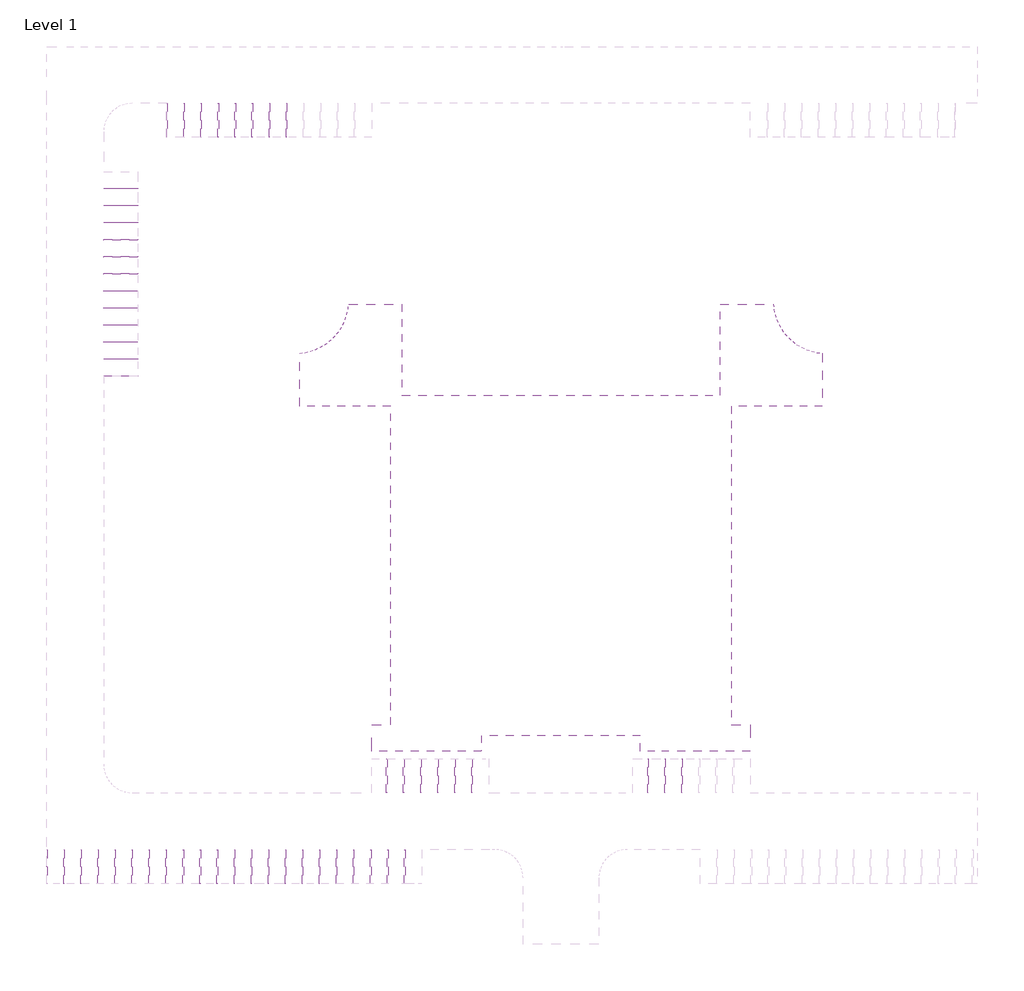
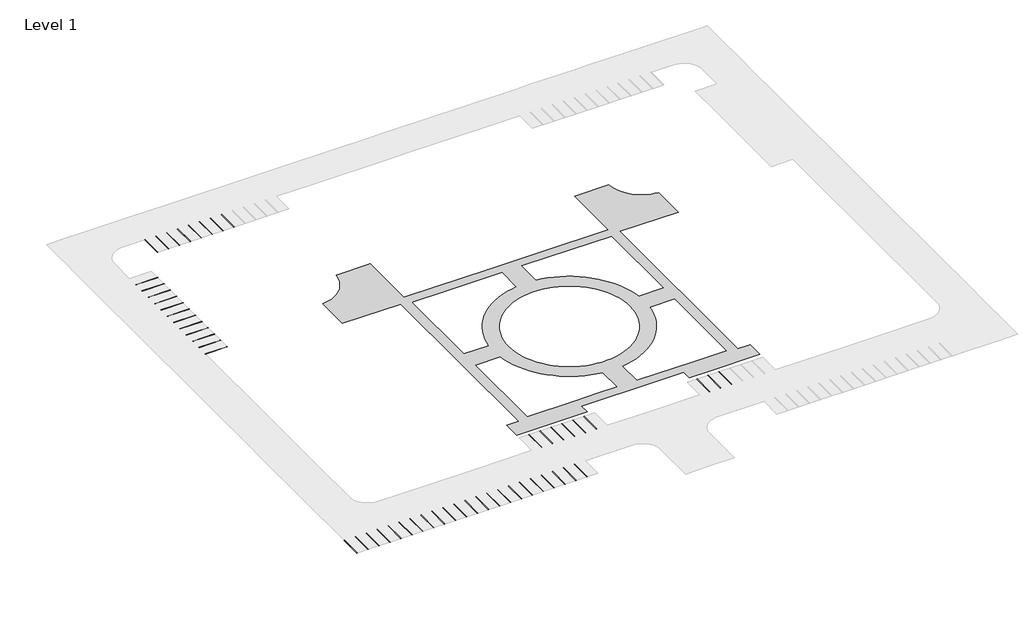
# One storey, part 1 of 2: 52 proxies.
"""IFC4 building model written with IfcOpenShell, lengths in millimetres."""

from ifc_helpers import new_model, si_unit, origin, place, context, project, spatial, triangles, transform, mapped, element, save
from components import parking_space_9_x_18_90_deg_b8b21359

model = new_model("IFC4")

# Units and contexts
model_context = context("Model", 3, world=origin())
ifc_project = project(units=[si_unit("LENGTHUNIT", "METRE", prefix="MILLI")], contexts=[model_context])

# Site, building, storey
site = spatial("IfcSite", under=ifc_project)
building = spatial("IfcBuilding", under=site)
storey = spatial("IfcBuildingStorey", under=building, Name="Level 1", Elevation=0.0)

# Proxies
placement = place(None, origin())
element("IfcBuildingElementProxy", 1, Name="Building Element Proxy", at=placement, inside=storey, context=model_context, shape_type="Tessellation", body=[
    triangles([(-111072.6156006, -54073.3412842, 3048.0), (-111072.6156006, -39442.9412842, 3048.0), (-119628.8189209, -39442.9412842, 3048.0), (-119735.1101074, -40306.4467163, 3048.0), (-119928.7727051, -41154.6368042, 3048.0), (-120207.7789307, -41978.7074341, 3048.0), (-120569.2266357, -42770.091687, 3048.0), (-121009.3765137, -43520.5621582, 3048.0), (-121523.6427979, -44222.3193237, 3048.0), (-122106.6862793, -44868.0752563, 3048.0), (-122752.4422119, -45451.1140869, 3048.0), (-123454.1947266, -45965.3803711, 3048.0), (-124204.6698486, -46405.530249, 3048.0), (-124996.0541016, -46766.982605, 3048.0), (-125820.1154297, -47045.9888306, 3048.0), (-126668.3148193, -47239.6467773, 3048.0), (-127531.8156006, -47345.9426147, 3048.0), (-127531.8156006, -55902.1412842, 3048.0), (-112901.4156006, -55902.1412842, 3048.0), (-112901.4156006, -107108.5412842, 3048.0), (-115949.4156006, -107108.5412842, 3048.0), (-115949.4156006, -111375.7412842, 3048.0), (-98271.0156006, -111375.7412842, 3048.0), (-98271.0156006, -111226.9875732, 3048.0), (-98271.0156006, -108937.3412842, 3048.0), (-93048.4134521, -108937.3412842, 3048.0), (-85469.4156006, -108937.3412842, 3048.0), (-72667.8156006, -108937.3412842, 3048.0), (-72667.8156006, -111375.7412842, 3048.0), (-68081.5978638, -111375.7412842, 3048.0), (-54989.4156006, -111375.7412842, 3048.0), (-54989.4156006, -107108.5412842, 3048.0), (-58037.4156006, -107108.5412842, 3048.0), (-58037.4156006, -55902.1412842, 3048.0), (-43407.0156006, -55902.1412842, 3048.0), (-43407.0156006, -47345.9426147, 3048.0), (-44270.5163818, -47239.6467773, 3048.0), (-45118.7111206, -47045.9888306, 3048.0), (-45942.7817505, -46766.982605, 3048.0), (-46734.1613525, -46405.530249, 3048.0), (-47484.6318237, -45965.3803711, 3048.0), (-48186.3936401, -45451.1140869, 3048.0), (-48832.1495728, -44868.0752563, 3048.0), (-49415.1884033, -44222.3193237, 3048.0), (-49929.4546875, -43520.5621582, 3048.0), (-50369.5999146, -42770.091687, 3048.0), (-50731.0569214, -41978.7074341, 3048.0), (-51010.063147, -41154.6368042, 3048.0), (-51203.7210937, -40306.4467163, 3048.0), (-51310.0169312, -39442.9412842, 3048.0), (-59866.2156006, -39442.9412842, 3048.0), (-59866.2156006, -54073.3412842, 3048.0), (-76556.7875244, -54073.3412842, 3048.0), (-90020.5982666, -54073.3412842, 3048.0), (-103108.0691895, -54073.3412842, 3048.0), (-87907.8156006, -56511.7412842, 3048.0), (-87907.8156006, -62765.717688, 3048.0), (-89266.0489746, -62993.0526489, 3048.0), (-90529.822998, -63300.615271, 3048.0), (-90604.1254395, -63318.6978882, 3048.0), (-91914.9384521, -63740.9232788, 3048.0), (-93191.5116943, -64257.4870972, 3048.0), (-94427.0827881, -64865.6453247, 3048.0), (-95615.0846924, -65562.1702515, 3048.0), (-96749.2015137, -66343.3597778, 3048.0), (-97823.4243164, -67205.0699707, 3048.0), (-98832.0325195, -68142.7197144, 3048.0), (-99769.6869141, -69151.3372192, 3048.0), (-100631.3924561, -70225.5553711, 3048.0), (-101412.5912842, -71359.6768433, 3048.0), (-101615.7602783, -71706.2091797, 3048.0), (-102109.1162109, -72547.6740967, 3048.0), (-102717.2744385, -73783.2451904, 3048.0), (-103233.8382568, -75059.8230835, 3048.0), (-103656.0636475, -76370.6314453, 3048.0), (-103981.7088867, -77708.7032593, 3048.0), (-104209.0438477, -79066.9412842, 3048.0), (-110463.0156006, -79066.9412842, 3048.0), (-110463.0156006, -56511.7412842, 3048.0), (-102901.7003906, -56511.7412842, 3048.0), (-90155.1667969, -56511.7412842, 3048.0), (-87907.8156006, -106498.9412842, 3048.0), (-92913.8356201, -106498.9412842, 3048.0), (-98671.1586182, -106498.9412842, 3048.0), (-110463.0156006, -106498.9412842, 3048.0), (-110463.0156006, -83943.7412842, 3048.0), (-104209.0438477, -83943.7412842, 3048.0), (-103981.7088867, -85301.98396, 3048.0), (-103656.0636475, -86640.051123, 3048.0), (-103233.8382568, -87950.8641357, 3048.0), (-102717.2744385, -89227.4373779, 3048.0), (-102109.1162109, -90463.0084717, 3048.0), (-101412.5912842, -91651.010376, 3048.0), (-100631.3924561, -92785.1271973, 3048.0), (-99769.6869141, -93859.35, 3048.0), (-99737.9958252, -93893.4409424, 3048.0), (-98832.0325195, -94867.9675049, 3048.0), (-97823.4243164, -95805.6125977, 3048.0), (-96749.2015137, -96667.3274414, 3048.0), (-95615.0846924, -97448.5169678, 3048.0), (-94427.0827881, -98145.0418945, 3048.0), (-93191.5116943, -98753.2001221, 3048.0), (-92501.7770508, -99032.2993652, 3048.0), (-91914.9384521, -99269.7639404, 3048.0), (-90604.1254395, -99691.9893311, 3048.0), (-89266.0489746, -100017.6345703, 3048.0), (-87907.8156006, -100244.9695312, 3048.0), (-100709.4156006, -81505.3412842, 3048.0), (-100659.9953613, -80279.0347412, 3048.0), (-100512.0602051, -79060.6718994, 3048.0), (-100266.5682129, -77858.1732056, 3048.0), (-99925.1099854, -76679.324231, 3048.0), (-99489.8993408, -75531.7710205, 3048.0), (-98963.7640137, -74422.9596313, 3048.0), (-98350.1084473, -73360.0849731, 3048.0), (-97652.9230957, -72350.0303467, 3048.0), (-96876.7193115, -71399.3534912, 3048.0), (-96026.5386475, -70514.2168213, 3048.0), (-95107.8877441, -69700.3641724, 3048.0), (-94126.7197266, -68963.0696411, 3048.0), (-93089.4156006, -68307.1143311, 3048.0), (-92002.6912354, -67736.7584473, 3048.0), (-90873.5973633, -67255.6947876, 3048.0), (-90745.7447021, -67213.0136719, 3048.0), (-89709.445166, -66867.0487427, 3048.0), (-88517.8062744, -66573.3317871, 3048.0), (-87306.3918457, -66376.460083, 3048.0), (-86083.071167, -66277.7033203, 3048.0), (-84855.7600342, -66277.7033203, 3048.0), (-83632.4393555, -66376.460083, 3048.0), (-82421.0249268, -66573.3317871, 3048.0), (-81229.3860352, -66867.0487427, 3048.0), (-80065.2338379, -67255.6947876, 3048.0), (-78936.1399658, -67736.7584473, 3048.0), (-77849.4156006, -68307.1143311, 3048.0), (-76812.1068237, -68963.0696411, 3048.0), (-75830.9481079, -69700.3641724, 3048.0), (-74912.2972046, -70514.2168213, 3048.0), (-74062.1118896, -71399.3534912, 3048.0), (-73979.2053223, -71500.8961304, 3048.0), (-73285.9081055, -72350.0303467, 3048.0), (-72588.718103, -73360.0849731, 3048.0), (-71975.0671875, -74422.9596313, 3048.0), (-71448.9272095, -75531.7710205, 3048.0), (-71013.7212158, -76679.324231, 3048.0), (-70672.2629883, -77858.1732056, 3048.0), (-70426.7709961, -79060.6718994, 3048.0), (-70278.8358398, -80279.0347412, 3048.0), (-70229.4156006, -81505.3412842, 3048.0), (-70278.8358398, -82731.6571289, 3048.0), (-70426.7709961, -83950.0106689, 3048.0), (-70672.2629883, -85152.5140137, 3048.0), (-71013.7212158, -86331.3629883, 3048.0), (-71448.9272095, -87478.9115479, 3048.0), (-71576.305481, -87747.3602783, 3048.0), (-71975.0671875, -88587.7275879, 3048.0), (-72588.718103, -89650.6022461, 3048.0), (-73285.9081055, -90660.6522217, 3048.0), (-74062.1118896, -91611.3290771, 3048.0), (-74912.2972046, -92496.4657471, 3048.0), (-75830.9481079, -93310.3230469, 3048.0), (-76812.1068237, -94047.6175781, 3048.0), (-77849.4156006, -94703.5682373, 3048.0), (-78936.1399658, -95273.9241211, 3048.0), (-80065.2338379, -95754.9924316, 3048.0), (-81229.3860352, -96143.6384766, 3048.0), (-82421.0249268, -96437.3507813, 3048.0), (-83632.4393555, -96634.2224854, 3048.0), (-84855.7600342, -96732.979248, 3048.0), (-86083.071167, -96732.979248, 3048.0), (-87306.3918457, -96634.2224854, 3048.0), (-88517.8062744, -96437.3507813, 3048.0), (-89709.445166, -96143.6384766, 3048.0), (-90873.5973633, -95754.9924316, 3048.0), (-92002.6912354, -95273.9241211, 3048.0), (-92286.1437012, -95125.1611084, 3048.0), (-93089.4156006, -94703.5682373, 3048.0), (-94126.7197266, -94047.6175781, 3048.0), (-95107.8877441, -93310.3230469, 3048.0), (-96026.5386475, -92496.4657471, 3048.0), (-96876.7193115, -91611.3290771, 3048.0), (-97652.9230957, -90660.6522217, 3048.0), (-98350.1084473, -89650.6022461, 3048.0), (-98963.7640137, -88587.7275879, 3048.0), (-99489.8993408, -87478.9115479, 3048.0), (-99925.1099854, -86331.3629883, 3048.0), (-100266.5682129, -85152.5140137, 3048.0), (-100512.0602051, -83950.0106689, 3048.0), (-100659.9953613, -82731.6571289, 3048.0), (-83031.0156006, -56511.7412842, 3048.0), (-76196.1444214, -56511.7412842, 3048.0), (-60475.8156006, -56511.7412842, 3048.0), (-60475.8156006, -79066.9412842, 3048.0), (-66729.7920044, -79066.9412842, 3048.0), (-66957.1269653, -77708.7032593, 3048.0), (-67282.7722046, -76370.6314453, 3048.0), (-67704.9975952, -75059.8230835, 3048.0), (-68221.5614136, -73783.2451904, 3048.0), (-68829.7196411, -72547.6740967, 3048.0), (-69526.2445679, -71359.6768433, 3048.0), (-70307.4340942, -70225.5553711, 3048.0), (-71169.1442871, -69151.3372192, 3048.0), (-72106.7940308, -68142.7197144, 3048.0), (-73115.4068848, -67205.0699707, 3048.0), (-74189.6250366, -66343.3597778, 3048.0), (-74804.6758667, -65919.7112183, 3048.0), (-75323.7465088, -65562.1702515, 3048.0), (-76511.7484131, -64865.6453247, 3048.0), (-77747.3195068, -64257.4870972, 3048.0), (-79023.892749, -63740.9232788, 3048.0), (-80334.7057617, -63318.6978882, 3048.0), (-81672.7822266, -62993.0526489, 3048.0), (-83031.0156006, -62765.717688, 3048.0), (-83031.0156006, -106498.9412842, 3048.0), (-83031.0156006, -100244.9695312, 3048.0), (-81672.7822266, -100017.6345703, 3048.0), (-80334.7057617, -99691.9893311, 3048.0), (-79023.892749, -99269.7639404, 3048.0), (-77747.3195068, -98753.2001221, 3048.0), (-76511.7484131, -98145.0418945, 3048.0), (-75323.7465088, -97448.5169678, 3048.0), (-74189.6250366, -96667.3274414, 3048.0), (-73115.4068848, -95805.6125977, 3048.0), (-72106.7940308, -94867.9675049, 3048.0), (-71169.1442871, -93859.35, 3048.0), (-70749.6675659, -93336.4237793, 3048.0), (-70307.4340942, -92785.1271973, 3048.0), (-69526.2445679, -91651.010376, 3048.0), (-68829.7196411, -90463.0084717, 3048.0), (-68221.5614136, -89227.4373779, 3048.0), (-67704.9975952, -87950.8641357, 3048.0), (-67282.7722046, -86640.051123, 3048.0), (-66957.1269653, -85301.98396, 3048.0), (-66729.7920044, -83943.7412842, 3048.0), (-60475.8156006, -83943.7412842, 3048.0), (-60475.8156006, -106498.9412842, 3048.0), (-68802.8933716, -106498.9412842, 3048.0)], [[22, 20, 21], [20, 22, 85], [85, 86, 20], [19, 20, 86], [90, 91, 185], [184, 91, 92], [22, 23, 85], [181, 95, 96], [182, 94, 95], [183, 92, 93], [185, 91, 184], [183, 93, 94], [183, 184, 92], [96, 97, 181], [90, 185, 186], [188, 87, 88], [78, 87, 77], [87, 78, 86], [110, 76, 77], [108, 77, 87], [88, 89, 187], [188, 189, 87], [186, 187, 89], [188, 88, 187], [108, 109, 77], [110, 111, 76], [109, 110, 77], [189, 108, 87], [89, 90, 186], [76, 111, 75], [86, 78, 19], [84, 25, 83], [25, 84, 85], [25, 85, 24], [177, 100, 101], [102, 176, 101], [24, 85, 23], [26, 83, 25], [83, 26, 82], [171, 107, 170], [26, 27, 82], [174, 103, 104], [173, 104, 105], [106, 172, 105], [175, 102, 103], [107, 172, 106], [98, 99, 179], [179, 99, 178], [98, 179, 180], [183, 94, 182], [181, 97, 180], [95, 181, 182], [180, 97, 98], [175, 103, 174], [173, 105, 172], [104, 173, 174], [178, 99, 100], [178, 100, 177], [176, 177, 101], [176, 102, 175], [107, 171, 172], [107, 82, 215], [19, 78, 79], [113, 73, 74], [1, 79, 55], [16, 17, 18], [13, 18, 19], [1, 19, 79], [1, 10, 19], [72, 114, 71], [114, 72, 73], [54, 55, 80], [55, 79, 80], [115, 69, 70], [70, 71, 115], [112, 74, 75], [15, 16, 18], [14, 15, 18], [13, 19, 12], [11, 19, 10], [19, 11, 12], [14, 18, 13], [9, 1, 8], [6, 7, 2], [1, 7, 8], [4, 5, 2], [2, 3, 4], [5, 6, 2], [10, 1, 9], [7, 1, 2], [115, 71, 114], [114, 73, 113], [117, 67, 68], [116, 68, 69], [115, 116, 69], [117, 68, 116], [113, 74, 112], [117, 118, 67], [66, 118, 119], [67, 118, 66], [64, 120, 121], [62, 122, 123], [63, 121, 122], [65, 119, 120], [61, 123, 124], [120, 64, 65], [64, 121, 63], [63, 122, 62], [62, 123, 61], [61, 125, 60], [65, 66, 119], [59, 125, 126], [125, 59, 60], [58, 126, 57], [126, 58, 59], [54, 80, 81], [54, 81, 56], [213, 56, 57], [54, 56, 190], [57, 126, 127], [125, 61, 124], [75, 111, 112], [214, 215, 82], [169, 107, 215], [107, 169, 170], [167, 215, 216], [169, 215, 168], [217, 167, 216], [82, 27, 214], [214, 28, 237], [214, 27, 28], [219, 220, 164], [220, 221, 163], [219, 165, 218], [217, 218, 166], [222, 162, 221], [168, 215, 167], [167, 217, 166], [165, 219, 164], [163, 221, 162], [220, 163, 164], [218, 165, 166], [160, 161, 223], [223, 224, 160], [162, 222, 161], [160, 224, 159], [226, 158, 159], [229, 156, 157], [157, 158, 227], [224, 225, 159], [222, 223, 161], [28, 29, 30], [228, 157, 227], [227, 158, 226], [230, 154, 155], [230, 156, 229], [228, 229, 157], [155, 156, 230], [226, 159, 225], [236, 31, 33], [31, 236, 30], [31, 32, 33], [237, 30, 236], [230, 231, 154], [236, 33, 235], [28, 30, 237], [154, 231, 153], [152, 153, 232], [151, 152, 233], [146, 147, 195], [147, 148, 194], [151, 234, 150], [233, 234, 151], [234, 235, 193], [150, 234, 149], [194, 148, 149], [147, 194, 195], [194, 149, 234], [234, 193, 194], [33, 34, 235], [233, 152, 232], [153, 231, 232], [146, 195, 196], [207, 135, 136], [208, 134, 135], [210, 132, 133], [211, 131, 132], [133, 134, 209], [202, 203, 139], [202, 140, 141], [140, 202, 139], [137, 138, 204], [203, 204, 138], [138, 139, 203], [136, 137, 205], [141, 142, 201], [137, 204, 205], [129, 130, 213], [129, 213, 57], [56, 213, 190], [213, 130, 131], [212, 213, 131], [211, 212, 131], [128, 129, 57], [134, 208, 209], [207, 208, 135], [210, 133, 209], [132, 210, 211], [53, 190, 191], [191, 192, 53], [136, 206, 207], [136, 205, 206], [57, 127, 128], [198, 143, 144], [199, 143, 198], [141, 201, 202], [201, 142, 200], [200, 142, 199], [144, 145, 197], [143, 199, 142], [198, 144, 197], [145, 196, 197], [52, 53, 192], [43, 52, 34], [34, 52, 192], [34, 35, 40], [192, 193, 34], [36, 37, 35], [34, 193, 235], [145, 146, 196], [46, 47, 51], [46, 51, 52], [50, 51, 49], [48, 49, 51], [51, 47, 48], [52, 45, 46], [39, 40, 35], [37, 38, 35], [39, 35, 38], [45, 52, 44], [43, 34, 42], [52, 43, 44], [42, 34, 41], [34, 40, 41], [53, 54, 190]], closed=False),
])
parking_space_9_x_18_90_deg_shape = parking_space_9_x_18_90_deg_b8b21359(model_context)
element("IfcBuildingElementProxy", 2, Name="Parking Space : 9' x 18' - 90 deg", ObjectType="Parking Space : 9' x 18' - 90 deg", at=placement, inside=storey, context=model_context, shape_type="MappedRepresentation", body=[
    mapped(parking_space_9_x_18_90_deg_shape, transform((-99795.0156636, -112594.9428359, 3048.7803686), x_axis=(1.0, 0.0, 0.0), y_axis=(0.0, 1.0, 0.0), z_axis=(0.0, 0.0, 1.0))),
])
element("IfcBuildingElementProxy", 3, Name="Parking Space : 9' x 18' - 90 deg", ObjectType="Parking Space : 9' x 18' - 90 deg", at=placement, inside=storey, context=model_context, shape_type="MappedRepresentation", body=[
    mapped(parking_space_9_x_18_90_deg_shape, transform((-110605.1037774, -127225.3428359, 3048.7803686), x_axis=(1.0, 0.0, 0.0), y_axis=(0.0, 1.0, 0.0), z_axis=(0.0, 0.0, 1.0))),
])
element("IfcBuildingElementProxy", 4, Name="Parking Space : 9' x 18' - 90 deg", ObjectType="Parking Space : 9' x 18' - 90 deg", at=placement, inside=storey, context=model_context, shape_type="MappedRepresentation", body=[
    mapped(parking_space_9_x_18_90_deg_shape, transform((-113348.3037774, -127225.3428359, 3048.7803686), x_axis=(1.0, 0.0, 0.0), y_axis=(0.0, 1.0, 0.0), z_axis=(0.0, 0.0, 1.0))),
])
element("IfcBuildingElementProxy", 5, Name="Parking Space : 9' x 18' - 90 deg", ObjectType="Parking Space : 9' x 18' - 90 deg", at=placement, inside=storey, context=model_context, shape_type="MappedRepresentation", body=[
    mapped(parking_space_9_x_18_90_deg_shape, transform((-116091.5037774, -127225.3428359, 3048.7803686), x_axis=(1.0, 0.0, 0.0), y_axis=(0.0, 1.0, 0.0), z_axis=(0.0, 0.0, 1.0))),
])
element("IfcBuildingElementProxy", 6, Name="Parking Space : 9' x 18' - 90 deg", ObjectType="Parking Space : 9' x 18' - 90 deg", at=placement, inside=storey, context=model_context, shape_type="MappedRepresentation", body=[
    mapped(parking_space_9_x_18_90_deg_shape, transform((-118834.7037774, -127225.3428359, 3048.7803686), x_axis=(1.0, 0.0, 0.0), y_axis=(0.0, 1.0, 0.0), z_axis=(0.0, 0.0, 1.0))),
])
element("IfcBuildingElementProxy", 7, Name="Parking Space : 9' x 18' - 90 deg", ObjectType="Parking Space : 9' x 18' - 90 deg", at=placement, inside=storey, context=model_context, shape_type="MappedRepresentation", body=[
    mapped(parking_space_9_x_18_90_deg_shape, transform((-121577.9037774, -127225.3428359, 3048.7803686), x_axis=(1.0, 0.0, 0.0), y_axis=(0.0, 1.0, 0.0), z_axis=(0.0, 0.0, 1.0))),
])
element("IfcBuildingElementProxy", 8, Name="Parking Space : 9' x 18' - 90 deg", ObjectType="Parking Space : 9' x 18' - 90 deg", at=placement, inside=storey, context=model_context, shape_type="MappedRepresentation", body=[
    mapped(parking_space_9_x_18_90_deg_shape, transform((-124321.1037774, -127225.3428359, 3048.7803686), x_axis=(1.0, 0.0, 0.0), y_axis=(0.0, 1.0, 0.0), z_axis=(0.0, 0.0, 1.0))),
])
element("IfcBuildingElementProxy", 9, Name="Parking Space : 9' x 18' - 90 deg", ObjectType="Parking Space : 9' x 18' - 90 deg", at=placement, inside=storey, context=model_context, shape_type="MappedRepresentation", body=[
    mapped(parking_space_9_x_18_90_deg_shape, transform((-127064.3037774, -127225.3428359, 3048.7803686), x_axis=(1.0, 0.0, 0.0), y_axis=(0.0, 1.0, 0.0), z_axis=(0.0, 0.0, 1.0))),
])
element("IfcBuildingElementProxy", 10, Name="Parking Space : 9' x 18' - 90 deg", ObjectType="Parking Space : 9' x 18' - 90 deg", at=placement, inside=storey, context=model_context, shape_type="MappedRepresentation", body=[
    mapped(parking_space_9_x_18_90_deg_shape, transform((-129807.5037774, -127225.3428359, 3048.7803686), x_axis=(1.0, 0.0, 0.0), y_axis=(0.0, 1.0, 0.0), z_axis=(0.0, 0.0, 1.0))),
])
element("IfcBuildingElementProxy", 11, Name="Parking Space : 9' x 18' - 90 deg", ObjectType="Parking Space : 9' x 18' - 90 deg", at=placement, inside=storey, context=model_context, shape_type="MappedRepresentation", body=[
    mapped(parking_space_9_x_18_90_deg_shape, transform((-132550.7037774, -127225.3428359, 3048.7803686), x_axis=(1.0, 0.0, 0.0), y_axis=(0.0, 1.0, 0.0), z_axis=(0.0, 0.0, 1.0))),
])
element("IfcBuildingElementProxy", 12, Name="Parking Space : 9' x 18' - 90 deg", ObjectType="Parking Space : 9' x 18' - 90 deg", at=placement, inside=storey, context=model_context, shape_type="MappedRepresentation", body=[
    mapped(parking_space_9_x_18_90_deg_shape, transform((-135293.9037774, -127225.3428359, 3048.7803686), x_axis=(1.0, 0.0, 0.0), y_axis=(0.0, 1.0, 0.0), z_axis=(0.0, 0.0, 1.0))),
])
element("IfcBuildingElementProxy", 13, Name="Parking Space : 9' x 18' - 90 deg", ObjectType="Parking Space : 9' x 18' - 90 deg", at=placement, inside=storey, context=model_context, shape_type="MappedRepresentation", body=[
    mapped(parking_space_9_x_18_90_deg_shape, transform((-138037.1037774, -127225.3428359, 3048.7803686), x_axis=(1.0, 0.0, 0.0), y_axis=(0.0, 1.0, 0.0), z_axis=(0.0, 0.0, 1.0))),
])
element("IfcBuildingElementProxy", 14, Name="Parking Space : 9' x 18' - 90 deg", ObjectType="Parking Space : 9' x 18' - 90 deg", at=placement, inside=storey, context=model_context, shape_type="MappedRepresentation", body=[
    mapped(parking_space_9_x_18_90_deg_shape, transform((-140780.3037774, -127225.3428359, 3048.7803686), x_axis=(1.0, 0.0, 0.0), y_axis=(0.0, 1.0, 0.0), z_axis=(0.0, 0.0, 1.0))),
])
element("IfcBuildingElementProxy", 15, Name="Parking Space : 9' x 18' - 90 deg", ObjectType="Parking Space : 9' x 18' - 90 deg", at=placement, inside=storey, context=model_context, shape_type="MappedRepresentation", body=[
    mapped(parking_space_9_x_18_90_deg_shape, transform((-143523.5037774, -127225.3428359, 3048.7803686), x_axis=(1.0, 0.0, 0.0), y_axis=(0.0, 1.0, 0.0), z_axis=(0.0, 0.0, 1.0))),
])
element("IfcBuildingElementProxy", 16, Name="Parking Space : 9' x 18' - 90 deg", ObjectType="Parking Space : 9' x 18' - 90 deg", at=placement, inside=storey, context=model_context, shape_type="MappedRepresentation", body=[
    mapped(parking_space_9_x_18_90_deg_shape, transform((-146266.7037774, -127225.3428359, 3048.7803686), x_axis=(1.0, 0.0, 0.0), y_axis=(0.0, 1.0, 0.0), z_axis=(0.0, 0.0, 1.0))),
])
element("IfcBuildingElementProxy", 17, Name="Parking Space : 9' x 18' - 90 deg", ObjectType="Parking Space : 9' x 18' - 90 deg", at=placement, inside=storey, context=model_context, shape_type="MappedRepresentation", body=[
    mapped(parking_space_9_x_18_90_deg_shape, transform((-149009.9037774, -127225.3428359, 3048.7803686), x_axis=(1.0, 0.0, 0.0), y_axis=(0.0, 1.0, 0.0), z_axis=(0.0, 0.0, 1.0))),
])
element("IfcBuildingElementProxy", 18, Name="Parking Space : 9' x 18' - 90 deg", ObjectType="Parking Space : 9' x 18' - 90 deg", at=placement, inside=storey, context=model_context, shape_type="MappedRepresentation", body=[
    mapped(parking_space_9_x_18_90_deg_shape, transform((-151753.1037774, -127225.3428359, 3048.7803686), x_axis=(1.0, 0.0, 0.0), y_axis=(0.0, 1.0, 0.0), z_axis=(0.0, 0.0, 1.0))),
])
element("IfcBuildingElementProxy", 19, Name="Parking Space : 9' x 18' - 90 deg", ObjectType="Parking Space : 9' x 18' - 90 deg", at=placement, inside=storey, context=model_context, shape_type="MappedRepresentation", body=[
    mapped(parking_space_9_x_18_90_deg_shape, transform((-154496.3037774, -127225.3428359, 3048.7803686), x_axis=(1.0, 0.0, 0.0), y_axis=(0.0, 1.0, 0.0), z_axis=(0.0, 0.0, 1.0))),
])
element("IfcBuildingElementProxy", 20, Name="Parking Space : 9' x 18' - 90 deg", ObjectType="Parking Space : 9' x 18' - 90 deg", at=placement, inside=storey, context=model_context, shape_type="MappedRepresentation", body=[
    mapped(parking_space_9_x_18_90_deg_shape, transform((-157239.5037774, -127225.3428359, 3048.7803686), x_axis=(1.0, 0.0, 0.0), y_axis=(0.0, 1.0, 0.0), z_axis=(0.0, 0.0, 1.0))),
])
element("IfcBuildingElementProxy", 21, Name="Parking Space : 9' x 18' - 90 deg", ObjectType="Parking Space : 9' x 18' - 90 deg", at=placement, inside=storey, context=model_context, shape_type="MappedRepresentation", body=[
    mapped(parking_space_9_x_18_90_deg_shape, transform((-159982.7037774, -127225.3428359, 3048.7803686), x_axis=(1.0, 0.0, 0.0), y_axis=(0.0, 1.0, 0.0), z_axis=(0.0, 0.0, 1.0))),
])
element("IfcBuildingElementProxy", 22, Name="Parking Space : 9' x 18' - 90 deg", ObjectType="Parking Space : 9' x 18' - 90 deg", at=placement, inside=storey, context=model_context, shape_type="MappedRepresentation", body=[
    mapped(parking_space_9_x_18_90_deg_shape, transform((-162725.9037774, -127225.3428359, 3048.7803686), x_axis=(1.0, 0.0, 0.0), y_axis=(0.0, 1.0, 0.0), z_axis=(0.0, 0.0, 1.0))),
])
element("IfcBuildingElementProxy", 23, Name="Parking Space : 9' x 18' - 90 deg", ObjectType="Parking Space : 9' x 18' - 90 deg", at=placement, inside=storey, context=model_context, shape_type="MappedRepresentation", body=[
    mapped(parking_space_9_x_18_90_deg_shape, transform((-165469.1037774, -127225.3428359, 3048.7803686), x_axis=(1.0, 0.0, 0.0), y_axis=(0.0, 1.0, 0.0), z_axis=(0.0, 0.0, 1.0))),
])
element("IfcBuildingElementProxy", 24, Name="Parking Space : 9' x 18' - 90 deg", ObjectType="Parking Space : 9' x 18' - 90 deg", at=placement, inside=storey, context=model_context, shape_type="MappedRepresentation", body=[
    mapped(parking_space_9_x_18_90_deg_shape, transform((-168212.3037774, -127225.3428359, 3048.7803686), x_axis=(1.0, 0.0, 0.0), y_axis=(0.0, 1.0, 0.0), z_axis=(0.0, 0.0, 1.0))),
])
element("IfcBuildingElementProxy", 25, Name="Parking Space : 9' x 18' - 90 deg", ObjectType="Parking Space : 9' x 18' - 90 deg", at=placement, inside=storey, context=model_context, shape_type="MappedRepresentation", body=[
    mapped(parking_space_9_x_18_90_deg_shape, transform((-159078.6156636, -51025.3428359, 3048.7803686), x_axis=(0.0, 1.0, 0.0), y_axis=(-1.0, 0.0, 0.0), z_axis=(0.0, 0.0, 1.0))),
])
element("IfcBuildingElementProxy", 26, Name="Parking Space : 9' x 18' - 90 deg", ObjectType="Parking Space : 9' x 18' - 90 deg", at=placement, inside=storey, context=model_context, shape_type="MappedRepresentation", body=[
    mapped(parking_space_9_x_18_90_deg_shape, transform((-159078.6156636, -48282.1428359, 3048.7803686), x_axis=(0.0, 1.0, 0.0), y_axis=(-1.0, 0.0, 0.0), z_axis=(0.0, 0.0, 1.0))),
])
element("IfcBuildingElementProxy", 27, Name="Parking Space : 9' x 18' - 90 deg", ObjectType="Parking Space : 9' x 18' - 90 deg", at=placement, inside=storey, context=model_context, shape_type="MappedRepresentation", body=[
    mapped(parking_space_9_x_18_90_deg_shape, transform((-159078.6156636, -45538.9428359, 3048.7803686), x_axis=(0.0, 1.0, 0.0), y_axis=(-1.0, 0.0, 0.0), z_axis=(0.0, 0.0, 1.0))),
])
element("IfcBuildingElementProxy", 28, Name="Parking Space : 9' x 18' - 90 deg", ObjectType="Parking Space : 9' x 18' - 90 deg", at=placement, inside=storey, context=model_context, shape_type="MappedRepresentation", body=[
    mapped(parking_space_9_x_18_90_deg_shape, transform((-159078.6156636, -42795.7428359, 3048.7803686), x_axis=(0.0, 1.0, 0.0), y_axis=(-1.0, 0.0, 0.0), z_axis=(0.0, 0.0, 1.0))),
])
element("IfcBuildingElementProxy", 29, Name="Parking Space : 9' x 18' - 90 deg", ObjectType="Parking Space : 9' x 18' - 90 deg", at=placement, inside=storey, context=model_context, shape_type="MappedRepresentation", body=[
    mapped(parking_space_9_x_18_90_deg_shape, transform((-159078.6156636, -40052.5428359, 3048.7803686), x_axis=(0.0, 1.0, 0.0), y_axis=(-1.0, 0.0, 0.0), z_axis=(0.0, 0.0, 1.0))),
])
element("IfcBuildingElementProxy", 30, Name="Parking Space : 9' x 18' - 90 deg", ObjectType="Parking Space : 9' x 18' - 90 deg", at=placement, inside=storey, context=model_context, shape_type="MappedRepresentation", body=[
    mapped(parking_space_9_x_18_90_deg_shape, transform((-159078.6156636, -37309.3428359, 3048.7803686), x_axis=(0.0, 1.0, 0.0), y_axis=(-1.0, 0.0, 0.0), z_axis=(0.0, 0.0, 1.0))),
])
element("IfcBuildingElementProxy", 31, Name="Parking Space : 9' x 18' - 90 deg", ObjectType="Parking Space : 9' x 18' - 90 deg", at=placement, inside=storey, context=model_context, shape_type="MappedRepresentation", body=[
    mapped(parking_space_9_x_18_90_deg_shape, transform((-159078.6156636, -34566.1428359, 3048.7803686), x_axis=(0.0, 1.0, 0.0), y_axis=(-1.0, 0.0, 0.0), z_axis=(0.0, 0.0, 1.0))),
])
element("IfcBuildingElementProxy", 32, Name="Parking Space : 9' x 18' - 90 deg", ObjectType="Parking Space : 9' x 18' - 90 deg", at=placement, inside=storey, context=model_context, shape_type="MappedRepresentation", body=[
    mapped(parking_space_9_x_18_90_deg_shape, transform((-159078.6156636, -31822.9428359, 3048.7803686), x_axis=(0.0, 1.0, 0.0), y_axis=(-1.0, 0.0, 0.0), z_axis=(0.0, 0.0, 1.0))),
])
element("IfcBuildingElementProxy", 33, Name="Parking Space : 9' x 18' - 90 deg", ObjectType="Parking Space : 9' x 18' - 90 deg", at=placement, inside=storey, context=model_context, shape_type="MappedRepresentation", body=[
    mapped(parking_space_9_x_18_90_deg_shape, transform((-159078.6156636, -29079.7428359, 3048.7803686), x_axis=(0.0, 1.0, 0.0), y_axis=(-1.0, 0.0, 0.0), z_axis=(0.0, 0.0, 1.0))),
])
element("IfcBuildingElementProxy", 34, Name="Parking Space : 9' x 18' - 90 deg", ObjectType="Parking Space : 9' x 18' - 90 deg", at=placement, inside=storey, context=model_context, shape_type="MappedRepresentation", body=[
    mapped(parking_space_9_x_18_90_deg_shape, transform((-159078.6156636, -26336.5428359, 3048.7803686), x_axis=(0.0, 1.0, 0.0), y_axis=(-1.0, 0.0, 0.0), z_axis=(0.0, 0.0, 1.0))),
])
element("IfcBuildingElementProxy", 35, Name="Parking Space : 9' x 18' - 90 deg", ObjectType="Parking Space : 9' x 18' - 90 deg", at=placement, inside=storey, context=model_context, shape_type="MappedRepresentation", body=[
    mapped(parking_space_9_x_18_90_deg_shape, transform((-159078.6156636, -23593.3428359, 3048.7803686), x_axis=(0.0, 1.0, 0.0), y_axis=(-1.0, 0.0, 0.0), z_axis=(0.0, 0.0, 1.0))),
])
element("IfcBuildingElementProxy", 36, Name="Parking Space : 9' x 18' - 90 deg", ObjectType="Parking Space : 9' x 18' - 90 deg", at=placement, inside=storey, context=model_context, shape_type="MappedRepresentation", body=[
    mapped(parking_space_9_x_18_90_deg_shape, transform((-159078.6156636, -20850.1428359, 3048.7803686), x_axis=(0.0, 1.0, 0.0), y_axis=(-1.0, 0.0, 0.0), z_axis=(0.0, 0.0, 1.0))),
])
element("IfcBuildingElementProxy", 37, Name="Parking Space : 9' x 18' - 90 deg", ObjectType="Parking Space : 9' x 18' - 90 deg", at=placement, inside=storey, context=model_context, shape_type="MappedRepresentation", body=[
    mapped(parking_space_9_x_18_90_deg_shape, transform((-129665.4156636, -7119.2950703, 3048.7803686), x_axis=(1.0, 0.0, 0.0), y_axis=(0.0, 1.0, 0.0), z_axis=(0.0, 0.0, 1.0))),
])
element("IfcBuildingElementProxy", 38, Name="Parking Space : 9' x 18' - 90 deg", ObjectType="Parking Space : 9' x 18' - 90 deg", at=placement, inside=storey, context=model_context, shape_type="MappedRepresentation", body=[
    mapped(parking_space_9_x_18_90_deg_shape, transform((-132408.6156636, -7119.2950703, 3048.7803686), x_axis=(1.0, 0.0, 0.0), y_axis=(0.0, 1.0, 0.0), z_axis=(0.0, 0.0, 1.0))),
])
element("IfcBuildingElementProxy", 39, Name="Parking Space : 9' x 18' - 90 deg", ObjectType="Parking Space : 9' x 18' - 90 deg", at=placement, inside=storey, context=model_context, shape_type="MappedRepresentation", body=[
    mapped(parking_space_9_x_18_90_deg_shape, transform((-135151.8156636, -7119.2950703, 3048.7803686), x_axis=(1.0, 0.0, 0.0), y_axis=(0.0, 1.0, 0.0), z_axis=(0.0, 0.0, 1.0))),
])
element("IfcBuildingElementProxy", 40, Name="Parking Space : 9' x 18' - 90 deg", ObjectType="Parking Space : 9' x 18' - 90 deg", at=placement, inside=storey, context=model_context, shape_type="MappedRepresentation", body=[
    mapped(parking_space_9_x_18_90_deg_shape, transform((-137895.0156636, -7119.2950703, 3048.7803686), x_axis=(1.0, 0.0, 0.0), y_axis=(0.0, 1.0, 0.0), z_axis=(0.0, 0.0, 1.0))),
])
element("IfcBuildingElementProxy", 41, Name="Parking Space : 9' x 18' - 90 deg", ObjectType="Parking Space : 9' x 18' - 90 deg", at=placement, inside=storey, context=model_context, shape_type="MappedRepresentation", body=[
    mapped(parking_space_9_x_18_90_deg_shape, transform((-140638.2156636, -7119.2950703, 3048.7803686), x_axis=(1.0, 0.0, 0.0), y_axis=(0.0, 1.0, 0.0), z_axis=(0.0, 0.0, 1.0))),
])
element("IfcBuildingElementProxy", 42, Name="Parking Space : 9' x 18' - 90 deg", ObjectType="Parking Space : 9' x 18' - 90 deg", at=placement, inside=storey, context=model_context, shape_type="MappedRepresentation", body=[
    mapped(parking_space_9_x_18_90_deg_shape, transform((-143381.4156636, -7119.2950703, 3048.7803686), x_axis=(1.0, 0.0, 0.0), y_axis=(0.0, 1.0, 0.0), z_axis=(0.0, 0.0, 1.0))),
])
element("IfcBuildingElementProxy", 43, Name="Parking Space : 9' x 18' - 90 deg", ObjectType="Parking Space : 9' x 18' - 90 deg", at=placement, inside=storey, context=model_context, shape_type="MappedRepresentation", body=[
    mapped(parking_space_9_x_18_90_deg_shape, transform((-146124.6156636, -7119.2950703, 3048.7803686), x_axis=(1.0, 0.0, 0.0), y_axis=(0.0, 1.0, 0.0), z_axis=(0.0, 0.0, 1.0))),
])
element("IfcBuildingElementProxy", 44, Name="Parking Space : 9' x 18' - 90 deg", ObjectType="Parking Space : 9' x 18' - 90 deg", at=placement, inside=storey, context=model_context, shape_type="MappedRepresentation", body=[
    mapped(parking_space_9_x_18_90_deg_shape, transform((-148867.8156636, -7119.2950703, 3048.7803686), x_axis=(1.0, 0.0, 0.0), y_axis=(0.0, 1.0, 0.0), z_axis=(0.0, 0.0, 1.0))),
])
element("IfcBuildingElementProxy", 45, Name="Parking Space : 9' x 18' - 90 deg", ObjectType="Parking Space : 9' x 18' - 90 deg", at=placement, inside=storey, context=model_context, shape_type="MappedRepresentation", body=[
    mapped(parking_space_9_x_18_90_deg_shape, transform((-102538.2156636, -112594.9428359, 3048.7803686), x_axis=(1.0, 0.0, 0.0), y_axis=(0.0, 1.0, 0.0), z_axis=(0.0, 0.0, 1.0))),
])
element("IfcBuildingElementProxy", 46, Name="Parking Space : 9' x 18' - 90 deg", ObjectType="Parking Space : 9' x 18' - 90 deg", at=placement, inside=storey, context=model_context, shape_type="MappedRepresentation", body=[
    mapped(parking_space_9_x_18_90_deg_shape, transform((-105281.4156636, -112594.9428359, 3048.7803686), x_axis=(1.0, 0.0, 0.0), y_axis=(0.0, 1.0, 0.0), z_axis=(0.0, 0.0, 1.0))),
])
element("IfcBuildingElementProxy", 47, Name="Parking Space : 9' x 18' - 90 deg", ObjectType="Parking Space : 9' x 18' - 90 deg", at=placement, inside=storey, context=model_context, shape_type="MappedRepresentation", body=[
    mapped(parking_space_9_x_18_90_deg_shape, transform((-108024.6156636, -112594.9428359, 3048.7803686), x_axis=(1.0, 0.0, 0.0), y_axis=(0.0, 1.0, 0.0), z_axis=(0.0, 0.0, 1.0))),
])
element("IfcBuildingElementProxy", 48, Name="Parking Space : 9' x 18' - 90 deg", ObjectType="Parking Space : 9' x 18' - 90 deg", at=placement, inside=storey, context=model_context, shape_type="MappedRepresentation", body=[
    mapped(parking_space_9_x_18_90_deg_shape, transform((-110767.8156636, -112594.9428359, 3048.7803686), x_axis=(1.0, 0.0, 0.0), y_axis=(0.0, 1.0, 0.0), z_axis=(0.0, 0.0, 1.0))),
])
element("IfcBuildingElementProxy", 49, Name="Parking Space : 9' x 18' - 90 deg", ObjectType="Parking Space : 9' x 18' - 90 deg", at=placement, inside=storey, context=model_context, shape_type="MappedRepresentation", body=[
    mapped(parking_space_9_x_18_90_deg_shape, transform((-113511.0156636, -112594.9428359, 3048.7803686), x_axis=(1.0, 0.0, 0.0), y_axis=(0.0, 1.0, 0.0), z_axis=(0.0, 0.0, 1.0))),
])
element("IfcBuildingElementProxy", 50, Name="Parking Space : 9' x 18' - 90 deg", ObjectType="Parking Space : 9' x 18' - 90 deg", at=placement, inside=storey, context=model_context, shape_type="MappedRepresentation", body=[
    mapped(parking_space_9_x_18_90_deg_shape, transform((-65962.2156636, -112594.9428359, 3048.7803686), x_axis=(1.0, 0.0, 0.0), y_axis=(0.0, 1.0, 0.0), z_axis=(0.0, 0.0, 1.0))),
])
element("IfcBuildingElementProxy", 51, Name="Parking Space : 9' x 18' - 90 deg", ObjectType="Parking Space : 9' x 18' - 90 deg", at=placement, inside=storey, context=model_context, shape_type="MappedRepresentation", body=[
    mapped(parking_space_9_x_18_90_deg_shape, transform((-68705.4156636, -112594.9428359, 3048.7803686), x_axis=(1.0, 0.0, 0.0), y_axis=(0.0, 1.0, 0.0), z_axis=(0.0, 0.0, 1.0))),
])
element("IfcBuildingElementProxy", 52, Name="Parking Space : 9' x 18' - 90 deg", ObjectType="Parking Space : 9' x 18' - 90 deg", at=placement, inside=storey, context=model_context, shape_type="MappedRepresentation", body=[
    mapped(parking_space_9_x_18_90_deg_shape, transform((-71448.6156636, -112594.9428359, 3048.7803686), x_axis=(1.0, 0.0, 0.0), y_axis=(0.0, 1.0, 0.0), z_axis=(0.0, 0.0, 1.0))),
])

save(model, "model.ifc")
